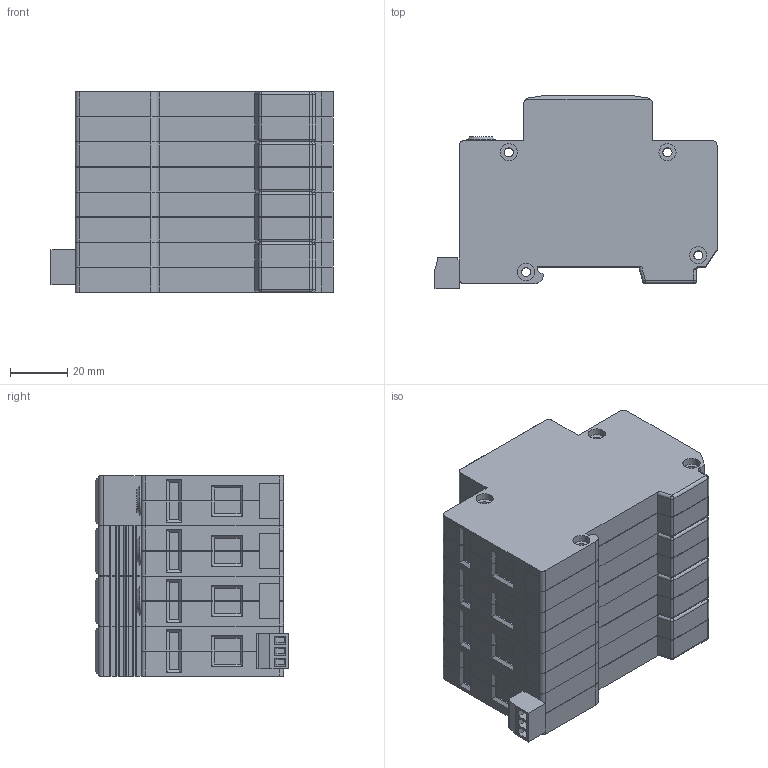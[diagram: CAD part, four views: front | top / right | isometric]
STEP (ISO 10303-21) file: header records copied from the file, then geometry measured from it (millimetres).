
FILE_DESCRIPTION(/* description */ (''),/* implementation_level */ '2;1');
FILE_NAME(/* name */ 'K:\PROJEKTY ROZPRACOVANÉ\MODELY DO KATALOGU\HSA, HLSA 24520, 10007\3D - STEP\H 3+1 M S.stp',/* time_stamp */ '2022-04-01T08:11:17+02:00',/* author */ ('miko'),/* organization */ (''),/* preprocessor_version */ 'ST-DEVELOPER v18.1',/* originating_system */ 'Autodesk Inventor 2022',/* authorisation */ '');
FILE_SCHEMA (('AUTOMOTIVE_DESIGN { 1 0 10303 214 3 1 1 }'));
Length unit declared in the file: millimetre
Products named in the file (12): H 3+1 M S; HSA M S; HSA M S_1; KONEKTOR DEGSON 15EDGK 3.81; KONEKTOR SAMEC; ISO 2009 - M1,6 x 2,5; KONEKTOR DEGSON 15EDGRC 3.81 (OBRÁCENÉ VÝV
ODY); HGDT (Z); HGDT (Z)_1; HSA M (Z); HSA M (Z)_1; DIN 7985 (H) - M5x6-H
Assembly tree (17 placements, depth 4):
  H 3+1 M S
    HSA M S
      HSA M S_1
      DIN 7985 (H) - M5x6-H  x2
      KONEKTOR DEGSON 15EDGK 3.81
        KONEKTOR SAMEC
        ISO 2009 - M1,6 x 2,5  x3
      KONEKTOR DEGSON 15EDGRC 3.81 (OBRÁCENÉ VÝV
ODY)
    HGDT (Z)
      HGDT (Z)_1
      DIN 7985 (H) - M5x6-H
    HSA M (Z)  x2
      HSA M (Z)_1
      DIN 7985 (H) - M5x6-H
Bounding box: 98.5 x 67.6 x 70 mm (x, y, z)
Volume: 337434.3 mm3; surface area: 80563.1 mm2
Topology: 14 solids, 14 shells, 1534 faces, 4127 edges, 2697 vertices
Faces by surface type: plane 1105, cylinder 289, cone 100, sphere 21, torus 19
Full cylindrical faces by diameter (mm): 0.968 x3, 1 x6, 1.171 x3, 1.6 x3, 1.9 x3, 2 x3, 2.5 x3, 3.2 x16, 4.6 x5, 5 x5, 6 x32, 10 x3
Entity records: 33314 total; most frequent: CARTESIAN_POINT 5865, ORIENTED_EDGE 5674, DIRECTION 5503, EDGE_CURVE 2837, LINE 2291, VECTOR 2291, VERTEX_POINT 1852, AXIS2_PLACEMENT_3D 1606
